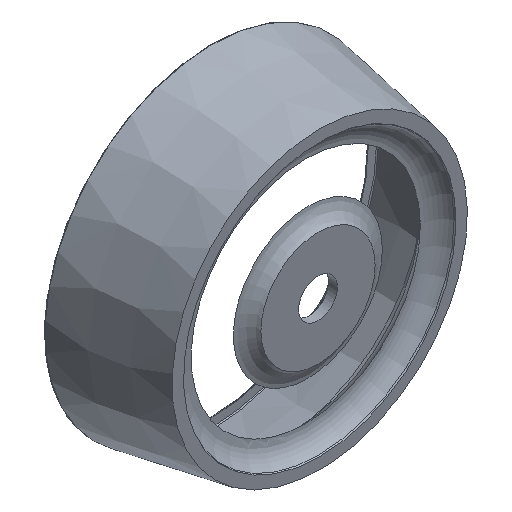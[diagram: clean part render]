
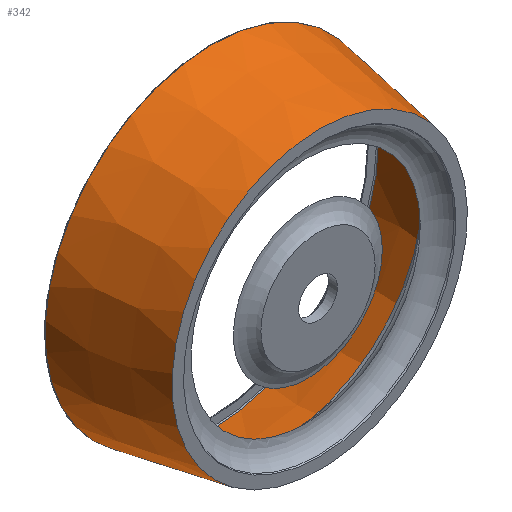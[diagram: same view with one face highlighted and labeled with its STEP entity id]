
A CAD part, isometric view. The second image highlights one B-rep face of the part: STEP entity #342.
In plain terms, the highlighted conical face has half-angle 10 degrees and reference radius 187.627 mm.
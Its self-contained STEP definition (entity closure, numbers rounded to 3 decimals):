
#25=LINE('',#652,#32);
#32=VECTOR('',#533,187.627);
#39=CONICAL_SURFACE('',#413,187.627,0.175);
#51=FACE_OUTER_BOUND('',#67,.T.);
#67=EDGE_LOOP('',(#287,#288,#289,#290,#291,#292,#293));
#100=CIRCLE('',#390,189.793);
#101=CIRCLE('',#391,189.793);
#102=CIRCLE('',#392,189.793);
#118=CIRCLE('',#414,168.135);
#119=CIRCLE('',#415,168.135);
#143=VERTEX_POINT('',#607);
#144=VERTEX_POINT('',#609);
#145=VERTEX_POINT('',#611);
#159=VERTEX_POINT('',#651);
#160=VERTEX_POINT('',#653);
#188=EDGE_CURVE('',#144,#143,#100,.T.);
#189=EDGE_CURVE('',#145,#144,#101,.T.);
#190=EDGE_CURVE('',#143,#145,#102,.T.);
#209=EDGE_CURVE('',#144,#159,#25,.T.);
#210=EDGE_CURVE('',#160,#159,#118,.T.);
#211=EDGE_CURVE('',#159,#160,#119,.T.);
#287=ORIENTED_EDGE('',*,*,#189,.T.);
#288=ORIENTED_EDGE('',*,*,#209,.T.);
#289=ORIENTED_EDGE('',*,*,#210,.F.);
#290=ORIENTED_EDGE('',*,*,#211,.F.);
#291=ORIENTED_EDGE('',*,*,#209,.F.);
#292=ORIENTED_EDGE('',*,*,#188,.T.);
#293=ORIENTED_EDGE('',*,*,#190,.T.);
#342=ADVANCED_FACE('',(#51),#39,.T.);
#390=AXIS2_PLACEMENT_3D('',#610,#482,#483);
#391=AXIS2_PLACEMENT_3D('',#612,#484,#485);
#392=AXIS2_PLACEMENT_3D('',#613,#486,#487);
#413=AXIS2_PLACEMENT_3D('',#650,#531,#532);
#414=AXIS2_PLACEMENT_3D('',#654,#534,#535);
#415=AXIS2_PLACEMENT_3D('',#655,#536,#537);
#482=DIRECTION('center_axis',(0.,-1.,0.));
#483=DIRECTION('ref_axis',(0.,0.,-1.));
#484=DIRECTION('center_axis',(0.,-1.,0.));
#485=DIRECTION('ref_axis',(0.,0.,-1.));
#486=DIRECTION('center_axis',(0.,-1.,0.));
#487=DIRECTION('ref_axis',(0.,0.,-1.));
#531=DIRECTION('center_axis',(0.,1.,0.));
#532=DIRECTION('ref_axis',(0.588,0.,0.809));
#533=DIRECTION('',(0.102,-0.985,0.14));
#534=DIRECTION('center_axis',(0.,-1.,0.));
#535=DIRECTION('ref_axis',(0.,0.,-1.));
#536=DIRECTION('center_axis',(0.,-1.,0.));
#537=DIRECTION('ref_axis',(0.,0.,-1.));
#607=CARTESIAN_POINT('',(0.,120.826,-189.793));
#609=CARTESIAN_POINT('',(-111.558,120.826,-153.546));
#610=CARTESIAN_POINT('Origin',(0.,120.826,0.));
#611=CARTESIAN_POINT('',(0.,120.826,189.793));
#612=CARTESIAN_POINT('Origin',(0.,120.826,0.));
#613=CARTESIAN_POINT('Origin',(0.,120.826,0.));
#650=CARTESIAN_POINT('Origin',(0.,108.544,0.));
#651=CARTESIAN_POINT('',(-98.828,-2.,-136.024));
#652=CARTESIAN_POINT('',(-110.285,108.544,-151.794));
#653=CARTESIAN_POINT('',(0.,-2.,168.135));
#654=CARTESIAN_POINT('Origin',(0.,-2.,0.));
#655=CARTESIAN_POINT('Origin',(0.,-2.,0.));
